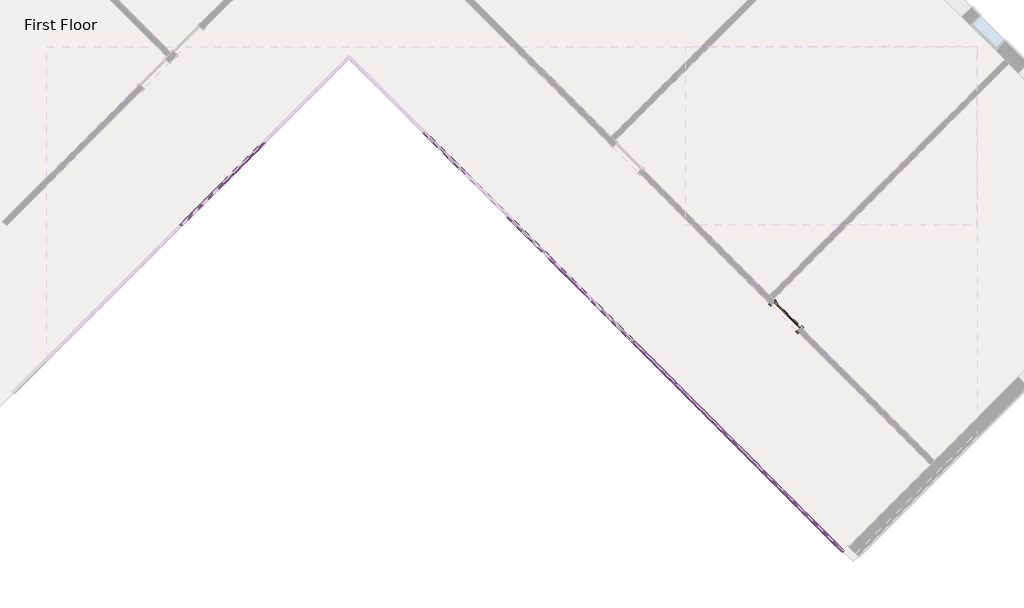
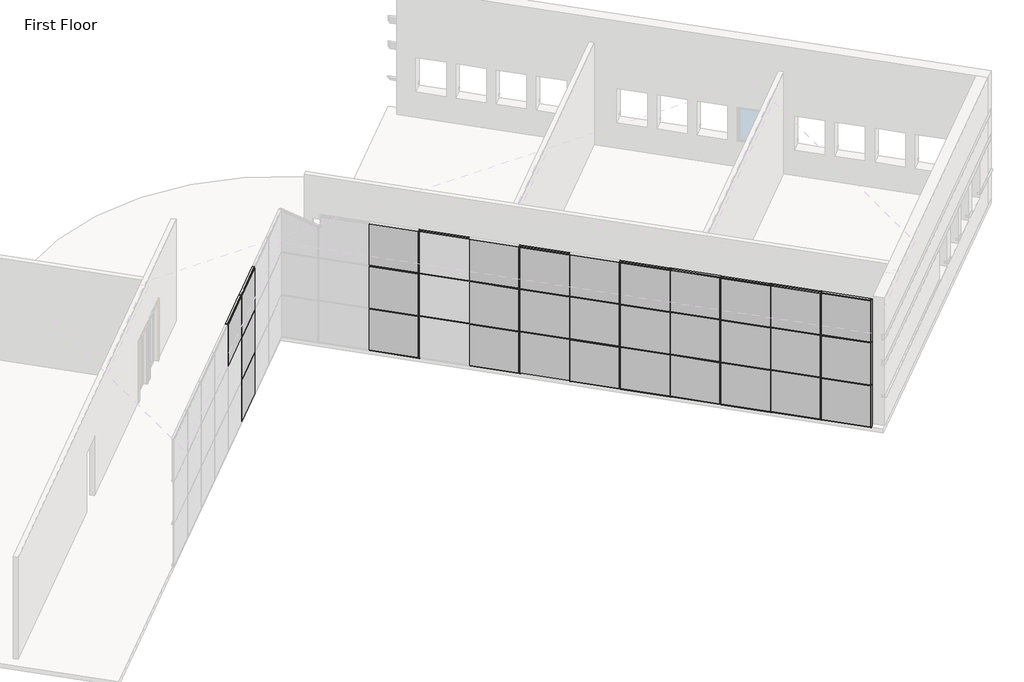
# One storey, part 2 of 5: 68 members, 31 plates, 1 door.
"""IFC4 building model written with IfcOpenShell, lengths in millimetres."""

from ifc_helpers import new_model, si_unit, origin, place, context, project, spatial, transform, mapped, element, save
from components import door_5f5b55da, member_b8a5b5c0, member_155beb68, member_f5090587, member_42be4715, member_6121af53, member_b87a50da, system_panel_glazed_f8555db4, system_panel_glazed_da345f4e, system_panel_glazed_d4009c89, system_panel_glazed_f1e4c5b0, system_panel_solid_99f695d0, system_panel_solid_2f1037e2

model = new_model("IFC4")

# Units and contexts
model_context = context("Model", 3, world=origin())
ifc_project = project(units=[si_unit("LENGTHUNIT", "METRE", prefix="MILLI")], contexts=[model_context])

# Site, building, storey
site = spatial("IfcSite", under=ifc_project)
building = spatial("IfcBuilding", under=site)
storey = spatial("IfcBuildingStorey", under=building, Name="First Floor", Elevation=0.0)

# Door
placement = place(None, origin())
door_shape = door_5f5b55da(model_context)
element("IfcDoor", 1, ObjectType="Single-Glass 1 : 36\" x 84\"", at=placement, inside=storey, context=model_context, shape_type="MappedRepresentation", body=[
    mapped(door_shape, transform((7764.3490435, -4325.5874634, 0.0), x_axis=(-0.7071067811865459, 0.7071067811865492, 0.0), y_axis=(-0.7071067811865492, -0.7071067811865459, 0.0), z_axis=(0.0, 0.0, 1.0))),
])

# Members
member_shape = member_b8a5b5c0(model_context)
element("IfcMember", 2, ObjectType="Rectangular Mullion : 1.5\" x 2.5\" Rectangular", at=placement, inside=storey, context=model_context, shape_type="MappedRepresentation", body=[
    mapped(member_shape, transform((9212.415343, -10333.3788084, 0.0), x_axis=(0.0, 0.0, -1.0), y_axis=(0.707106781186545, 0.70710678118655, 0.0), z_axis=(0.7071067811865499, -0.7071067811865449, 0.0))),
])
member_2_shape = member_155beb68(model_context)
element("IfcMember", 3, ObjectType="Rectangular Mullion : 1.5\" x 2.5\" Rectangular", at=placement, inside=storey, context=model_context, shape_type="MappedRepresentation", body=[
    mapped(member_2_shape, transform((-6675.9027992, -910.8450733, 0.0), x_axis=(-0.7071067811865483, -0.7071067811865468, 0.0), y_axis=(-0.7071067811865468, 0.7071067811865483, 0.0), z_axis=(0.0, 0.0, -1.0))),
])
element("IfcMember", 4, ObjectType="Rectangular Mullion : 1.5\" x 2.5\" Rectangular", at=placement, inside=storey, context=model_context, shape_type="MappedRepresentation", body=[
    mapped(member_2_shape, transform((-7753.5335337, -1988.4758079, 0.0), x_axis=(-0.7071067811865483, -0.7071067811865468, 0.0), y_axis=(-0.7071067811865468, 0.7071067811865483, 0.0), z_axis=(0.0, 0.0, -1.0))),
])
element("IfcMember", 5, ObjectType="Rectangular Mullion : 1.5\" x 2.5\" Rectangular", at=placement, inside=storey, context=model_context, shape_type="MappedRepresentation", body=[
    mapped(member_2_shape, transform((8161.7253768, -9282.6888422, 0.0), x_axis=(-0.7071067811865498, 0.7071067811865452, 0.0), y_axis=(0.7071067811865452, 0.7071067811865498, 0.0), z_axis=(0.0, 0.0, -1.0))),
])
element("IfcMember", 6, ObjectType="Rectangular Mullion : 1.5\" x 2.5\" Rectangular", at=placement, inside=storey, context=model_context, shape_type="MappedRepresentation", body=[
    mapped(member_2_shape, transform((7084.0946423, -8205.0581077, 0.0), x_axis=(-0.7071067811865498, 0.7071067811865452, 0.0), y_axis=(0.7071067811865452, 0.7071067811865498, 0.0), z_axis=(0.0, 0.0, -1.0))),
])
element("IfcMember", 7, ObjectType="Rectangular Mullion : 1.5\" x 2.5\" Rectangular", at=placement, inside=storey, context=model_context, shape_type="MappedRepresentation", body=[
    mapped(member_2_shape, transform((6006.4639078, -7127.4273731, 0.0), x_axis=(-0.7071067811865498, 0.7071067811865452, 0.0), y_axis=(0.7071067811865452, 0.7071067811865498, 0.0), z_axis=(0.0, 0.0, -1.0))),
])
element("IfcMember", 8, ObjectType="Rectangular Mullion : 1.5\" x 2.5\" Rectangular", at=placement, inside=storey, context=model_context, shape_type="MappedRepresentation", body=[
    mapped(member_2_shape, transform((4928.8331733, -6049.7966386, 0.0), x_axis=(-0.7071067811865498, 0.7071067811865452, 0.0), y_axis=(0.7071067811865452, 0.7071067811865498, 0.0), z_axis=(0.0, 0.0, -1.0))),
])
element("IfcMember", 9, ObjectType="Rectangular Mullion : 1.5\" x 2.5\" Rectangular", at=placement, inside=storey, context=model_context, shape_type="MappedRepresentation", body=[
    mapped(member_2_shape, transform((3851.2024387, -4972.1659041, 0.0), x_axis=(-0.7071067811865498, 0.7071067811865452, 0.0), y_axis=(0.7071067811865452, 0.7071067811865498, 0.0), z_axis=(0.0, 0.0, -1.0))),
])
element("IfcMember", 10, ObjectType="Rectangular Mullion : 1.5\" x 2.5\" Rectangular", at=placement, inside=storey, context=model_context, shape_type="MappedRepresentation", body=[
    mapped(member_2_shape, transform((2773.5717042, -3894.5351696, 0.0), x_axis=(-0.7071067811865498, 0.7071067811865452, 0.0), y_axis=(0.7071067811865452, 0.7071067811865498, 0.0), z_axis=(0.0, 0.0, -1.0))),
])
element("IfcMember", 11, ObjectType="Rectangular Mullion : 1.5\" x 2.5\" Rectangular", at=placement, inside=storey, context=model_context, shape_type="MappedRepresentation", body=[
    mapped(member_2_shape, transform((1695.9409697, -2816.904435, 0.0), x_axis=(-0.7071067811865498, 0.7071067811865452, 0.0), y_axis=(0.7071067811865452, 0.7071067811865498, 0.0), z_axis=(0.0, 0.0, -1.0))),
])
element("IfcMember", 12, ObjectType="Rectangular Mullion : 1.5\" x 2.5\" Rectangular", at=placement, inside=storey, context=model_context, shape_type="MappedRepresentation", body=[
    mapped(member_2_shape, transform((-459.3204994, -661.642966, 0.0), x_axis=(-0.7071067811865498, 0.7071067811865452, 0.0), y_axis=(0.7071067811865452, 0.7071067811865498, 0.0), z_axis=(0.0, 0.0, -1.0))),
])
member_3_shape = member_f5090587(model_context)
element("IfcMember", 13, ObjectType="Rectangular Mullion : 1.5\" x 2.5\" Rectangular", at=placement, inside=storey, context=model_context, shape_type="MappedRepresentation", body=[
    mapped(member_3_shape, transform((8175.195761, -9296.1592264, 1524.0), x_axis=(0.0, 0.0, 1.0), y_axis=(0.707106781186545, 0.70710678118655, 0.0), z_axis=(-0.7071067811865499, 0.7071067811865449, 0.0))),
])
element("IfcMember", 14, ObjectType="Rectangular Mullion : 1.5\" x 2.5\" Rectangular", at=placement, inside=storey, context=model_context, shape_type="MappedRepresentation", body=[
    mapped(member_3_shape, transform((8175.195761, -9296.1592264, 3048.0), x_axis=(0.0, 0.0, 1.0), y_axis=(0.7071067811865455, 0.7071067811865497, 0.0), z_axis=(-0.7071067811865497, 0.7071067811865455, 0.0))),
])
member_4_shape = member_42be4715(model_context)
element("IfcMember", 15, ObjectType="Rectangular Mullion : 1.5\" x 2.5\" Rectangular", at=placement, inside=storey, context=model_context, shape_type="MappedRepresentation", body=[
    mapped(member_4_shape, transform((-6662.432415, -897.3746892, 1524.0), x_axis=(0.0, 0.0, 1.0), y_axis=(-0.7071067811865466, 0.7071067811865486, 0.0), z_axis=(-0.7071067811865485, -0.7071067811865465, 0.0))),
])
element("IfcMember", 16, ObjectType="Rectangular Mullion : 1.5\" x 2.5\" Rectangular", at=placement, inside=storey, context=model_context, shape_type="MappedRepresentation", body=[
    mapped(member_4_shape, transform((-7740.0631495, -1975.0054237, 1524.0), x_axis=(0.0, 0.0, 1.0), y_axis=(-0.707106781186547, 0.707106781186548, 0.0), z_axis=(-0.707106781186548, -0.707106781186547, 0.0))),
])
element("IfcMember", 17, ObjectType="Rectangular Mullion : 1.5\" x 2.5\" Rectangular", at=placement, inside=storey, context=model_context, shape_type="MappedRepresentation", body=[
    mapped(member_4_shape, transform((-6662.432415, -897.3746892, 3048.0), x_axis=(0.0, 0.0, 1.0), y_axis=(-0.7071067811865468, 0.7071067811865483, 0.0), z_axis=(-0.7071067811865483, -0.7071067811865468, 0.0))),
])
element("IfcMember", 18, ObjectType="Rectangular Mullion : 1.5\" x 2.5\" Rectangular", at=placement, inside=storey, context=model_context, shape_type="MappedRepresentation", body=[
    mapped(member_4_shape, transform((-7740.0631495, -1975.0054237, 3048.0), x_axis=(0.0, 0.0, 1.0), y_axis=(-0.7071067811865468, 0.7071067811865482, 0.0), z_axis=(-0.7071067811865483, -0.7071067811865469, 0.0))),
])
element("IfcMember", 19, ObjectType="Rectangular Mullion : 1.5\" x 2.5\" Rectangular", at=placement, inside=storey, context=model_context, shape_type="MappedRepresentation", body=[
    mapped(member_4_shape, transform((7097.5650265, -8218.5284919, 1524.0), x_axis=(0.0, 0.0, 1.0), y_axis=(0.7071067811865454, 0.7071067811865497, 0.0), z_axis=(-0.7071067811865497, 0.7071067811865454, 0.0))),
])
element("IfcMember", 20, ObjectType="Rectangular Mullion : 1.5\" x 2.5\" Rectangular", at=placement, inside=storey, context=model_context, shape_type="MappedRepresentation", body=[
    mapped(member_4_shape, transform((6019.934292, -7140.8977573, 1524.0), x_axis=(0.0, 0.0, 1.0), y_axis=(0.7071067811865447, 0.7071067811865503, 0.0), z_axis=(-0.7071067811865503, 0.7071067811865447, 0.0))),
])
element("IfcMember", 21, ObjectType="Rectangular Mullion : 1.5\" x 2.5\" Rectangular", at=placement, inside=storey, context=model_context, shape_type="MappedRepresentation", body=[
    mapped(member_4_shape, transform((4942.3035574, -6063.2670228, 1524.0), x_axis=(0.0, 0.0, 1.0), y_axis=(0.7071067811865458, 0.7071067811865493, 0.0), z_axis=(-0.7071067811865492, 0.7071067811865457, 0.0))),
])
element("IfcMember", 22, ObjectType="Rectangular Mullion : 1.5\" x 2.5\" Rectangular", at=placement, inside=storey, context=model_context, shape_type="MappedRepresentation", body=[
    mapped(member_4_shape, transform((3864.6728229, -4985.6362883, 1524.0), x_axis=(0.0, 0.0, 1.0), y_axis=(0.7071067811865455, 0.7071067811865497, 0.0), z_axis=(-0.7071067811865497, 0.7071067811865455, 0.0))),
])
element("IfcMember", 23, ObjectType="Rectangular Mullion : 1.5\" x 2.5\" Rectangular", at=placement, inside=storey, context=model_context, shape_type="MappedRepresentation", body=[
    mapped(member_4_shape, transform((2787.0420884, -3908.0055537, 1524.0), x_axis=(0.0, 0.0, 1.0), y_axis=(0.707106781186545, 0.70710678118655, 0.0), z_axis=(-0.7071067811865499, 0.7071067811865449, 0.0))),
])
element("IfcMember", 24, ObjectType="Rectangular Mullion : 1.5\" x 2.5\" Rectangular", at=placement, inside=storey, context=model_context, shape_type="MappedRepresentation", body=[
    mapped(member_4_shape, transform((1709.4113539, -2830.3748192, 1524.0), x_axis=(0.0, 0.0, 1.0), y_axis=(0.7071067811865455, 0.7071067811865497, 0.0), z_axis=(-0.7071067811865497, 0.7071067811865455, 0.0))),
])
element("IfcMember", 25, ObjectType="Rectangular Mullion : 1.5\" x 2.5\" Rectangular", at=placement, inside=storey, context=model_context, shape_type="MappedRepresentation", body=[
    mapped(member_4_shape, transform((-445.8501152, -675.1133502, 1524.0), x_axis=(0.0, 0.0, 1.0), y_axis=(0.707106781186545, 0.70710678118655, 0.0), z_axis=(-0.70710678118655, 0.707106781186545, 0.0))),
])
element("IfcMember", 26, ObjectType="Rectangular Mullion : 1.5\" x 2.5\" Rectangular", at=placement, inside=storey, context=model_context, shape_type="MappedRepresentation", body=[
    mapped(member_4_shape, transform((7097.5650265, -8218.5284919, 3048.0), x_axis=(0.0, 0.0, 1.0), y_axis=(0.707106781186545, 0.70710678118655, 0.0), z_axis=(-0.70710678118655, 0.707106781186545, 0.0))),
])
element("IfcMember", 27, ObjectType="Rectangular Mullion : 1.5\" x 2.5\" Rectangular", at=placement, inside=storey, context=model_context, shape_type="MappedRepresentation", body=[
    mapped(member_4_shape, transform((6019.934292, -7140.8977573, 3048.0), x_axis=(0.0, 0.0, 1.0), y_axis=(0.7071067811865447, 0.7071067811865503, 0.0), z_axis=(-0.7071067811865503, 0.7071067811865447, 0.0))),
])
element("IfcMember", 28, ObjectType="Rectangular Mullion : 1.5\" x 2.5\" Rectangular", at=placement, inside=storey, context=model_context, shape_type="MappedRepresentation", body=[
    mapped(member_4_shape, transform((4942.3035574, -6063.2670228, 3048.0), x_axis=(0.0, 0.0, 1.0), y_axis=(0.7071067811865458, 0.7071067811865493, 0.0), z_axis=(-0.7071067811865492, 0.7071067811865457, 0.0))),
])
element("IfcMember", 29, ObjectType="Rectangular Mullion : 1.5\" x 2.5\" Rectangular", at=placement, inside=storey, context=model_context, shape_type="MappedRepresentation", body=[
    mapped(member_4_shape, transform((3864.6728229, -4985.6362883, 3048.0), x_axis=(0.0, 0.0, 1.0), y_axis=(0.7071067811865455, 0.7071067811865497, 0.0), z_axis=(-0.7071067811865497, 0.7071067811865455, 0.0))),
])
element("IfcMember", 30, ObjectType="Rectangular Mullion : 1.5\" x 2.5\" Rectangular", at=placement, inside=storey, context=model_context, shape_type="MappedRepresentation", body=[
    mapped(member_4_shape, transform((1709.4113539, -2830.3748192, 3048.0), x_axis=(0.0, 0.0, 1.0), y_axis=(0.7071067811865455, 0.7071067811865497, 0.0), z_axis=(-0.7071067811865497, 0.7071067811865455, 0.0))),
])
element("IfcMember", 31, ObjectType="Rectangular Mullion : 1.5\" x 2.5\" Rectangular", at=placement, inside=storey, context=model_context, shape_type="MappedRepresentation", body=[
    mapped(member_4_shape, transform((-445.8501152, -675.1133502, 3048.0), x_axis=(0.0, 0.0, 1.0), y_axis=(0.7071067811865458, 0.7071067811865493, 0.0), z_axis=(-0.7071067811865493, 0.7071067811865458, 0.0))),
])
member_5_shape = member_6121af53(model_context)
element("IfcMember", 32, ObjectType="Rectangular Mullion : 1.5\" x 2.5\" Rectangular", at=placement, inside=storey, context=model_context, shape_type="MappedRepresentation", body=[
    mapped(member_5_shape, transform((-6689.3731834, -924.3154575, 0.0), x_axis=(0.0, 0.0, -1.0), y_axis=(-0.7071067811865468, 0.7071067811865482, 0.0), z_axis=(0.7071067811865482, 0.7071067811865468, 0.0))),
])
element("IfcMember", 33, ObjectType="Rectangular Mullion : 1.5\" x 2.5\" Rectangular", at=placement, inside=storey, context=model_context, shape_type="MappedRepresentation", body=[
    mapped(member_5_shape, transform((8148.2549927, -9269.218458, 0.0), x_axis=(0.0, 0.0, -1.0), y_axis=(0.7071067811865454, 0.7071067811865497, 0.0), z_axis=(0.7071067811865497, -0.7071067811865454, 0.0))),
])
element("IfcMember", 34, ObjectType="Rectangular Mullion : 1.5\" x 2.5\" Rectangular", at=placement, inside=storey, context=model_context, shape_type="MappedRepresentation", body=[
    mapped(member_5_shape, transform((7070.6242581, -8191.5877235, 0.0), x_axis=(0.0, 0.0, -1.0), y_axis=(0.7071067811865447, 0.7071067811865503, 0.0), z_axis=(0.7071067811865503, -0.7071067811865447, 0.0))),
])
element("IfcMember", 35, ObjectType="Rectangular Mullion : 1.5\" x 2.5\" Rectangular", at=placement, inside=storey, context=model_context, shape_type="MappedRepresentation", body=[
    mapped(member_5_shape, transform((5992.9935236, -7113.956989, 0.0), x_axis=(0.0, 0.0, -1.0), y_axis=(0.7071067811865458, 0.7071067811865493, 0.0), z_axis=(0.7071067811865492, -0.7071067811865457, 0.0))),
])
element("IfcMember", 36, ObjectType="Rectangular Mullion : 1.5\" x 2.5\" Rectangular", at=placement, inside=storey, context=model_context, shape_type="MappedRepresentation", body=[
    mapped(member_5_shape, transform((4915.3627891, -6036.3262544, 0.0), x_axis=(0.0, 0.0, -1.0), y_axis=(0.707106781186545, 0.70710678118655, 0.0), z_axis=(0.70710678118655, -0.707106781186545, 0.0))),
])
element("IfcMember", 37, ObjectType="Rectangular Mullion : 1.5\" x 2.5\" Rectangular", at=placement, inside=storey, context=model_context, shape_type="MappedRepresentation", body=[
    mapped(member_5_shape, transform((3837.7320545, -4958.6955199, 0.0), x_axis=(0.0, 0.0, -1.0), y_axis=(0.7071067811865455, 0.7071067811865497, 0.0), z_axis=(0.7071067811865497, -0.7071067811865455, 0.0))),
])
element("IfcMember", 38, ObjectType="Rectangular Mullion : 1.5\" x 2.5\" Rectangular", at=placement, inside=storey, context=model_context, shape_type="MappedRepresentation", body=[
    mapped(member_5_shape, transform((1682.4705855, -2803.4340508, 0.0), x_axis=(0.0, 0.0, -1.0), y_axis=(0.707106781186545, 0.70710678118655, 0.0), z_axis=(0.7071067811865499, -0.7071067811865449, 0.0))),
])
element("IfcMember", 39, ObjectType="Rectangular Mullion : 1.5\" x 2.5\" Rectangular", at=placement, inside=storey, context=model_context, shape_type="MappedRepresentation", body=[
    mapped(member_5_shape, transform((-472.7908836, -648.1725818, 0.0), x_axis=(0.0, 0.0, -1.0), y_axis=(0.7071067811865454, 0.7071067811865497, 0.0), z_axis=(0.7071067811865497, -0.7071067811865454, 0.0))),
])
element("IfcMember", 40, ObjectType="Rectangular Mullion : 1.5\" x 2.5\" Rectangular", at=placement, inside=storey, context=model_context, shape_type="MappedRepresentation", body=[
    mapped(member_shape, transform((8175.195761, -9296.1592264, 4572.0), x_axis=(0.0, 0.0, 1.0), y_axis=(0.7071067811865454, 0.7071067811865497, 0.0), z_axis=(-0.7071067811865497, 0.7071067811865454, 0.0))),
])
element("IfcMember", 41, ObjectType="Rectangular Mullion : 1.5\" x 2.5\" Rectangular", at=placement, inside=storey, context=model_context, shape_type="MappedRepresentation", body=[
    mapped(member_5_shape, transform((-6662.432415, -897.3746892, 4572.0), x_axis=(0.0, 0.0, 1.0), y_axis=(-0.7071067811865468, 0.7071067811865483, 0.0), z_axis=(-0.7071067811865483, -0.7071067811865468, 0.0))),
])
element("IfcMember", 42, ObjectType="Rectangular Mullion : 1.5\" x 2.5\" Rectangular", at=placement, inside=storey, context=model_context, shape_type="MappedRepresentation", body=[
    mapped(member_5_shape, transform((-7740.0631495, -1975.0054237, 4572.0), x_axis=(0.0, 0.0, 1.0), y_axis=(-0.7071067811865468, 0.7071067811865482, 0.0), z_axis=(-0.7071067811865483, -0.7071067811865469, 0.0))),
])
element("IfcMember", 43, ObjectType="Rectangular Mullion : 1.5\" x 2.5\" Rectangular", at=placement, inside=storey, context=model_context, shape_type="MappedRepresentation", body=[
    mapped(member_5_shape, transform((7097.5650265, -8218.5284919, 4572.0), x_axis=(0.0, 0.0, 1.0), y_axis=(0.7071067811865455, 0.7071067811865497, 0.0), z_axis=(-0.7071067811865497, 0.7071067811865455, 0.0))),
])
element("IfcMember", 44, ObjectType="Rectangular Mullion : 1.5\" x 2.5\" Rectangular", at=placement, inside=storey, context=model_context, shape_type="MappedRepresentation", body=[
    mapped(member_5_shape, transform((6019.934292, -7140.8977573, 4572.0), x_axis=(0.0, 0.0, 1.0), y_axis=(0.7071067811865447, 0.7071067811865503, 0.0), z_axis=(-0.7071067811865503, 0.7071067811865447, 0.0))),
])
element("IfcMember", 45, ObjectType="Rectangular Mullion : 1.5\" x 2.5\" Rectangular", at=placement, inside=storey, context=model_context, shape_type="MappedRepresentation", body=[
    mapped(member_5_shape, transform((4942.3035574, -6063.2670228, 4572.0), x_axis=(0.0, 0.0, 1.0), y_axis=(0.7071067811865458, 0.7071067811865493, 0.0), z_axis=(-0.7071067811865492, 0.7071067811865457, 0.0))),
])
element("IfcMember", 46, ObjectType="Rectangular Mullion : 1.5\" x 2.5\" Rectangular", at=placement, inside=storey, context=model_context, shape_type="MappedRepresentation", body=[
    mapped(member_5_shape, transform((3864.6728229, -4985.6362883, 4572.0), x_axis=(0.0, 0.0, 1.0), y_axis=(0.7071067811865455, 0.7071067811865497, 0.0), z_axis=(-0.7071067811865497, 0.7071067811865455, 0.0))),
])
element("IfcMember", 47, ObjectType="Rectangular Mullion : 1.5\" x 2.5\" Rectangular", at=placement, inside=storey, context=model_context, shape_type="MappedRepresentation", body=[
    mapped(member_5_shape, transform((1709.4113539, -2830.3748192, 4572.0), x_axis=(0.0, 0.0, 1.0), y_axis=(0.7071067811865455, 0.7071067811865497, 0.0), z_axis=(-0.7071067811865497, 0.7071067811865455, 0.0))),
])
element("IfcMember", 48, ObjectType="Rectangular Mullion : 1.5\" x 2.5\" Rectangular", at=placement, inside=storey, context=model_context, shape_type="MappedRepresentation", body=[
    mapped(member_5_shape, transform((-445.8501152, -675.1133502, 4572.0), x_axis=(0.0, 0.0, 1.0), y_axis=(0.7071067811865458, 0.7071067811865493, 0.0), z_axis=(-0.7071067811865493, 0.7071067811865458, 0.0))),
])
element("IfcMember", 49, ObjectType="Rectangular Mullion : 1.5\" x 2.5\" Rectangular", at=placement, inside=storey, context=model_context, shape_type="MappedRepresentation", body=[
    mapped(member_2_shape, transform((-6675.9027992, -910.8450733, 1524.0), x_axis=(-0.7071067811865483, -0.7071067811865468, 0.0), y_axis=(-0.7071067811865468, 0.7071067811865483, 0.0), z_axis=(0.0, 0.0, -1.0))),
])
element("IfcMember", 50, ObjectType="Rectangular Mullion : 1.5\" x 2.5\" Rectangular", at=placement, inside=storey, context=model_context, shape_type="MappedRepresentation", body=[
    mapped(member_2_shape, transform((-7753.5335337, -1988.4758079, 1524.0), x_axis=(-0.7071067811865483, -0.7071067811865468, 0.0), y_axis=(-0.7071067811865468, 0.7071067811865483, 0.0), z_axis=(0.0, 0.0, -1.0))),
])
element("IfcMember", 51, ObjectType="Rectangular Mullion : 1.5\" x 2.5\" Rectangular", at=placement, inside=storey, context=model_context, shape_type="MappedRepresentation", body=[
    mapped(member_2_shape, transform((8161.7253768, -9282.6888422, 1524.0), x_axis=(-0.7071067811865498, 0.7071067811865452, 0.0), y_axis=(0.7071067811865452, 0.7071067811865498, 0.0), z_axis=(0.0, 0.0, -1.0))),
])
element("IfcMember", 52, ObjectType="Rectangular Mullion : 1.5\" x 2.5\" Rectangular", at=placement, inside=storey, context=model_context, shape_type="MappedRepresentation", body=[
    mapped(member_2_shape, transform((7084.0946423, -8205.0581077, 1524.0), x_axis=(-0.7071067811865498, 0.7071067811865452, 0.0), y_axis=(0.7071067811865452, 0.7071067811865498, 0.0), z_axis=(0.0, 0.0, -1.0))),
])
element("IfcMember", 53, ObjectType="Rectangular Mullion : 1.5\" x 2.5\" Rectangular", at=placement, inside=storey, context=model_context, shape_type="MappedRepresentation", body=[
    mapped(member_2_shape, transform((6006.4639078, -7127.4273731, 1524.0), x_axis=(-0.7071067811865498, 0.7071067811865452, 0.0), y_axis=(0.7071067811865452, 0.7071067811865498, 0.0), z_axis=(0.0, 0.0, -1.0))),
])
element("IfcMember", 54, ObjectType="Rectangular Mullion : 1.5\" x 2.5\" Rectangular", at=placement, inside=storey, context=model_context, shape_type="MappedRepresentation", body=[
    mapped(member_2_shape, transform((4928.8331733, -6049.7966386, 1524.0), x_axis=(-0.7071067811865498, 0.7071067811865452, 0.0), y_axis=(0.7071067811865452, 0.7071067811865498, 0.0), z_axis=(0.0, 0.0, -1.0))),
])
element("IfcMember", 55, ObjectType="Rectangular Mullion : 1.5\" x 2.5\" Rectangular", at=placement, inside=storey, context=model_context, shape_type="MappedRepresentation", body=[
    mapped(member_2_shape, transform((3851.2024387, -4972.1659041, 1524.0), x_axis=(-0.7071067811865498, 0.7071067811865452, 0.0), y_axis=(0.7071067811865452, 0.7071067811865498, 0.0), z_axis=(0.0, 0.0, -1.0))),
])
element("IfcMember", 56, ObjectType="Rectangular Mullion : 1.5\" x 2.5\" Rectangular", at=placement, inside=storey, context=model_context, shape_type="MappedRepresentation", body=[
    mapped(member_2_shape, transform((1695.9409697, -2816.904435, 1524.0), x_axis=(-0.7071067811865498, 0.7071067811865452, 0.0), y_axis=(0.7071067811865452, 0.7071067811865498, 0.0), z_axis=(0.0, 0.0, -1.0))),
])
element("IfcMember", 57, ObjectType="Rectangular Mullion : 1.5\" x 2.5\" Rectangular", at=placement, inside=storey, context=model_context, shape_type="MappedRepresentation", body=[
    mapped(member_2_shape, transform((-459.3204994, -661.642966, 1524.0), x_axis=(-0.7071067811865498, 0.7071067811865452, 0.0), y_axis=(0.7071067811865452, 0.7071067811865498, 0.0), z_axis=(0.0, 0.0, -1.0))),
])
element("IfcMember", 58, ObjectType="Rectangular Mullion : 1.5\" x 2.5\" Rectangular", at=placement, inside=storey, context=model_context, shape_type="MappedRepresentation", body=[
    mapped(member_2_shape, transform((-6675.9027992, -910.8450733, 3048.0), x_axis=(-0.7071067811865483, -0.7071067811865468, 0.0), y_axis=(-0.7071067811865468, 0.7071067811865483, 0.0), z_axis=(0.0, 0.0, -1.0))),
])
element("IfcMember", 59, ObjectType="Rectangular Mullion : 1.5\" x 2.5\" Rectangular", at=placement, inside=storey, context=model_context, shape_type="MappedRepresentation", body=[
    mapped(member_2_shape, transform((-7753.5335337, -1988.4758079, 3048.0), x_axis=(-0.7071067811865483, -0.7071067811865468, 0.0), y_axis=(-0.7071067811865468, 0.7071067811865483, 0.0), z_axis=(0.0, 0.0, -1.0))),
])
element("IfcMember", 60, ObjectType="Rectangular Mullion : 1.5\" x 2.5\" Rectangular", at=placement, inside=storey, context=model_context, shape_type="MappedRepresentation", body=[
    mapped(member_2_shape, transform((8161.7253768, -9282.6888422, 3048.0), x_axis=(-0.7071067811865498, 0.7071067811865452, 0.0), y_axis=(0.7071067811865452, 0.7071067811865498, 0.0), z_axis=(0.0, 0.0, -1.0))),
])
element("IfcMember", 61, ObjectType="Rectangular Mullion : 1.5\" x 2.5\" Rectangular", at=placement, inside=storey, context=model_context, shape_type="MappedRepresentation", body=[
    mapped(member_2_shape, transform((7084.0946423, -8205.0581077, 3048.0), x_axis=(-0.7071067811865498, 0.7071067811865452, 0.0), y_axis=(0.7071067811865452, 0.7071067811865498, 0.0), z_axis=(0.0, 0.0, -1.0))),
])
element("IfcMember", 62, ObjectType="Rectangular Mullion : 1.5\" x 2.5\" Rectangular", at=placement, inside=storey, context=model_context, shape_type="MappedRepresentation", body=[
    mapped(member_2_shape, transform((6006.4639078, -7127.4273731, 3048.0), x_axis=(-0.7071067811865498, 0.7071067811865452, 0.0), y_axis=(0.7071067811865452, 0.7071067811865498, 0.0), z_axis=(0.0, 0.0, -1.0))),
])
element("IfcMember", 63, ObjectType="Rectangular Mullion : 1.5\" x 2.5\" Rectangular", at=placement, inside=storey, context=model_context, shape_type="MappedRepresentation", body=[
    mapped(member_2_shape, transform((4928.8331733, -6049.7966386, 3048.0), x_axis=(-0.7071067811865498, 0.7071067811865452, 0.0), y_axis=(0.7071067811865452, 0.7071067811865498, 0.0), z_axis=(0.0, 0.0, -1.0))),
])
element("IfcMember", 64, ObjectType="Rectangular Mullion : 1.5\" x 2.5\" Rectangular", at=placement, inside=storey, context=model_context, shape_type="MappedRepresentation", body=[
    mapped(member_2_shape, transform((3851.2024387, -4972.1659041, 3048.0), x_axis=(-0.7071067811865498, 0.7071067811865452, 0.0), y_axis=(0.7071067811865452, 0.7071067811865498, 0.0), z_axis=(0.0, 0.0, -1.0))),
])
element("IfcMember", 65, ObjectType="Rectangular Mullion : 1.5\" x 2.5\" Rectangular", at=placement, inside=storey, context=model_context, shape_type="MappedRepresentation", body=[
    mapped(member_2_shape, transform((1695.9409697, -2816.904435, 3048.0), x_axis=(-0.7071067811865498, 0.7071067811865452, 0.0), y_axis=(0.7071067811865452, 0.7071067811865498, 0.0), z_axis=(0.0, 0.0, -1.0))),
])
element("IfcMember", 66, ObjectType="Rectangular Mullion : 1.5\" x 2.5\" Rectangular", at=placement, inside=storey, context=model_context, shape_type="MappedRepresentation", body=[
    mapped(member_2_shape, transform((-459.3204994, -661.642966, 3048.0), x_axis=(-0.7071067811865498, 0.7071067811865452, 0.0), y_axis=(0.7071067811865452, 0.7071067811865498, 0.0), z_axis=(0.0, 0.0, -1.0))),
])
member_6_shape = member_b87a50da(model_context)
element("IfcMember", 67, ObjectType="Rectangular Mullion : 1.5\" x 2.5\" Rectangular", at=placement, inside=storey, context=model_context, shape_type="MappedRepresentation", body=[
    mapped(member_6_shape, transform((9239.3561114, -10360.3195767, 4572.0), x_axis=(0.7071067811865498, -0.7071067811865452, 0.0), y_axis=(0.7071067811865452, 0.7071067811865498, 0.0), z_axis=(0.0, 0.0, 1.0))),
])
element("IfcMember", 68, ObjectType="Rectangular Mullion : 1.5\" x 2.5\" Rectangular", at=placement, inside=storey, context=model_context, shape_type="MappedRepresentation", body=[
    mapped(member_6_shape, transform((9239.3561114, -10360.3195767, 1524.0), x_axis=(0.7071067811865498, -0.7071067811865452, 0.0), y_axis=(0.7071067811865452, 0.7071067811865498, 0.0), z_axis=(0.0, 0.0, 1.0))),
])
element("IfcMember", 69, ObjectType="Rectangular Mullion : 1.5\" x 2.5\" Rectangular", at=placement, inside=storey, context=model_context, shape_type="MappedRepresentation", body=[
    mapped(member_6_shape, transform((9239.3561114, -10360.3195767, 3048.0), x_axis=(0.7071067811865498, -0.7071067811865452, 0.0), y_axis=(0.7071067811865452, 0.7071067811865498, 0.0), z_axis=(0.0, 0.0, 1.0))),
])

# Plates
system_panel_glazed_shape = system_panel_glazed_f8555db4(model_context)
element("IfcPlate", 70, ObjectType="System Panel : Glazed", at=placement, inside=storey, context=model_context, shape_type="MappedRepresentation", body=[
    mapped(system_panel_glazed_shape, transform((8693.805552, -9814.7690174, 38.1), x_axis=(-0.7071067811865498, 0.7071067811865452, 0.0), y_axis=(-0.7071067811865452, -0.7071067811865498, 0.0), z_axis=(0.0, 0.0, 1.0))),
])
system_panel_glazed_2_shape = system_panel_glazed_da345f4e(model_context)
element("IfcPlate", 71, ObjectType="System Panel : Glazed", at=placement, inside=storey, context=model_context, shape_type="MappedRepresentation", body=[
    mapped(system_panel_glazed_2_shape, transform((7622.9100096, -8743.8734749, 38.1), x_axis=(-0.7071067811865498, 0.7071067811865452, 0.0), y_axis=(-0.7071067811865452, -0.7071067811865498, 0.0), z_axis=(0.0, 0.0, 1.0))),
])
element("IfcPlate", 72, ObjectType="System Panel : Glazed", at=placement, inside=storey, context=model_context, shape_type="MappedRepresentation", body=[
    mapped(system_panel_glazed_2_shape, transform((6545.2792751, -7666.2427404, 38.1), x_axis=(-0.7071067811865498, 0.7071067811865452, 0.0), y_axis=(-0.7071067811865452, -0.7071067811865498, 0.0), z_axis=(0.0, 0.0, 1.0))),
])
element("IfcPlate", 73, ObjectType="System Panel : Glazed", at=placement, inside=storey, context=model_context, shape_type="MappedRepresentation", body=[
    mapped(system_panel_glazed_2_shape, transform((5467.6485405, -6588.6120059, 38.1), x_axis=(-0.7071067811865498, 0.7071067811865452, 0.0), y_axis=(-0.7071067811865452, -0.7071067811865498, 0.0), z_axis=(0.0, 0.0, 1.0))),
])
element("IfcPlate", 74, ObjectType="System Panel : Glazed", at=placement, inside=storey, context=model_context, shape_type="MappedRepresentation", body=[
    mapped(system_panel_glazed_2_shape, transform((4390.017806, -5510.9812714, 38.1), x_axis=(-0.7071067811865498, 0.7071067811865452, 0.0), y_axis=(-0.7071067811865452, -0.7071067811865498, 0.0), z_axis=(0.0, 0.0, 1.0))),
])
element("IfcPlate", 75, ObjectType="System Panel : Glazed", at=placement, inside=storey, context=model_context, shape_type="MappedRepresentation", body=[
    mapped(system_panel_glazed_2_shape, transform((3312.3870715, -4433.3505368, 38.1), x_axis=(-0.7071067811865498, 0.7071067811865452, 0.0), y_axis=(-0.7071067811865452, -0.7071067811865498, 0.0), z_axis=(0.0, 0.0, 1.0))),
])
element("IfcPlate", 76, ObjectType="System Panel : Glazed", at=placement, inside=storey, context=model_context, shape_type="MappedRepresentation", body=[
    mapped(system_panel_glazed_2_shape, transform((2234.7563369, -3355.7198023, 38.1), x_axis=(-0.7071067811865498, 0.7071067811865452, 0.0), y_axis=(-0.7071067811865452, -0.7071067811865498, 0.0), z_axis=(0.0, 0.0, 1.0))),
])
element("IfcPlate", 77, ObjectType="System Panel : Glazed", at=placement, inside=storey, context=model_context, shape_type="MappedRepresentation", body=[
    mapped(system_panel_glazed_2_shape, transform((1157.1256024, -2278.0890678, 38.1), x_axis=(-0.7071067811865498, 0.7071067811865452, 0.0), y_axis=(-0.7071067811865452, -0.7071067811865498, 0.0), z_axis=(0.0, 0.0, 1.0))),
])
element("IfcPlate", 78, ObjectType="System Panel : Glazed", at=placement, inside=storey, context=model_context, shape_type="MappedRepresentation", body=[
    mapped(system_panel_glazed_2_shape, transform((-998.1358666, -122.8275987, 38.1), x_axis=(-0.7071067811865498, 0.7071067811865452, 0.0), y_axis=(-0.7071067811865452, -0.7071067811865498, 0.0), z_axis=(0.0, 0.0, 1.0))),
])
element("IfcPlate", 79, ObjectType="System Panel : Glazed", at=placement, inside=storey, context=model_context, shape_type="MappedRepresentation", body=[
    mapped(system_panel_glazed_2_shape, transform((-6137.0874319, -372.0297061, 38.1), x_axis=(-0.7071067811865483, -0.7071067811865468, 0.0), y_axis=(0.7071067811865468, -0.7071067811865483, 0.0), z_axis=(0.0, 0.0, 1.0))),
])
system_panel_glazed_3_shape = system_panel_glazed_d4009c89(model_context)
element("IfcPlate", 80, ObjectType="System Panel : Glazed", at=placement, inside=storey, context=model_context, shape_type="MappedRepresentation", body=[
    mapped(system_panel_glazed_3_shape, transform((8693.805552, -9814.7690174, 1543.05), x_axis=(-0.7071067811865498, 0.7071067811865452, 0.0), y_axis=(-0.7071067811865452, -0.7071067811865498, 0.0), z_axis=(0.0, 0.0, 1.0))),
])
system_panel_glazed_4_shape = system_panel_glazed_f1e4c5b0(model_context)
element("IfcPlate", 81, ObjectType="System Panel : Glazed", at=placement, inside=storey, context=model_context, shape_type="MappedRepresentation", body=[
    mapped(system_panel_glazed_4_shape, transform((7622.9100096, -8743.8734749, 1543.05), x_axis=(-0.7071067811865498, 0.7071067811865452, 0.0), y_axis=(-0.7071067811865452, -0.7071067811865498, 0.0), z_axis=(0.0, 0.0, 1.0))),
])
element("IfcPlate", 82, ObjectType="System Panel : Glazed", at=placement, inside=storey, context=model_context, shape_type="MappedRepresentation", body=[
    mapped(system_panel_glazed_4_shape, transform((6545.2792751, -7666.2427404, 1543.05), x_axis=(-0.7071067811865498, 0.7071067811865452, 0.0), y_axis=(-0.7071067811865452, -0.7071067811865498, 0.0), z_axis=(0.0, 0.0, 1.0))),
])
element("IfcPlate", 83, ObjectType="System Panel : Glazed", at=placement, inside=storey, context=model_context, shape_type="MappedRepresentation", body=[
    mapped(system_panel_glazed_4_shape, transform((5467.6485405, -6588.6120059, 1543.05), x_axis=(-0.7071067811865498, 0.7071067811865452, 0.0), y_axis=(-0.7071067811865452, -0.7071067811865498, 0.0), z_axis=(0.0, 0.0, 1.0))),
])
element("IfcPlate", 84, ObjectType="System Panel : Glazed", at=placement, inside=storey, context=model_context, shape_type="MappedRepresentation", body=[
    mapped(system_panel_glazed_4_shape, transform((4390.017806, -5510.9812714, 1543.05), x_axis=(-0.7071067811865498, 0.7071067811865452, 0.0), y_axis=(-0.7071067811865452, -0.7071067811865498, 0.0), z_axis=(0.0, 0.0, 1.0))),
])
element("IfcPlate", 85, ObjectType="System Panel : Glazed", at=placement, inside=storey, context=model_context, shape_type="MappedRepresentation", body=[
    mapped(system_panel_glazed_4_shape, transform((3312.3870715, -4433.3505368, 1543.05), x_axis=(-0.7071067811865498, 0.7071067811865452, 0.0), y_axis=(-0.7071067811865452, -0.7071067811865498, 0.0), z_axis=(0.0, 0.0, 1.0))),
])
element("IfcPlate", 86, ObjectType="System Panel : Glazed", at=placement, inside=storey, context=model_context, shape_type="MappedRepresentation", body=[
    mapped(system_panel_glazed_4_shape, transform((2234.7563369, -3355.7198023, 1543.05), x_axis=(-0.7071067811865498, 0.7071067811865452, 0.0), y_axis=(-0.7071067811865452, -0.7071067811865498, 0.0), z_axis=(0.0, 0.0, 1.0))),
])
element("IfcPlate", 87, ObjectType="System Panel : Glazed", at=placement, inside=storey, context=model_context, shape_type="MappedRepresentation", body=[
    mapped(system_panel_glazed_4_shape, transform((1157.1256024, -2278.0890678, 1543.05), x_axis=(-0.7071067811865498, 0.7071067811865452, 0.0), y_axis=(-0.7071067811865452, -0.7071067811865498, 0.0), z_axis=(0.0, 0.0, 1.0))),
])
element("IfcPlate", 88, ObjectType="System Panel : Glazed", at=placement, inside=storey, context=model_context, shape_type="MappedRepresentation", body=[
    mapped(system_panel_glazed_4_shape, transform((-998.1358666, -122.8275987, 1543.05), x_axis=(-0.7071067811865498, 0.7071067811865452, 0.0), y_axis=(-0.7071067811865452, -0.7071067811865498, 0.0), z_axis=(0.0, 0.0, 1.0))),
])
element("IfcPlate", 89, ObjectType="System Panel : Glazed", at=placement, inside=storey, context=model_context, shape_type="MappedRepresentation", body=[
    mapped(system_panel_glazed_4_shape, transform((-6137.0874319, -372.0297061, 1543.05), x_axis=(-0.7071067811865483, -0.7071067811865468, 0.0), y_axis=(0.7071067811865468, -0.7071067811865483, 0.0), z_axis=(0.0, 0.0, 1.0))),
])
system_panel_solid_shape = system_panel_solid_99f695d0(model_context)
element("IfcPlate", 90, ObjectType="System Panel : Solid", at=placement, inside=storey, context=model_context, shape_type="MappedRepresentation", body=[
    mapped(system_panel_solid_shape, transform((8693.805552, -9814.7690174, 3067.05), x_axis=(-0.7071067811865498, 0.7071067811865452, 0.0), y_axis=(-0.7071067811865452, -0.7071067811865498, 0.0), z_axis=(0.0, 0.0, 1.0))),
])
system_panel_solid_2_shape = system_panel_solid_2f1037e2(model_context)
element("IfcPlate", 91, ObjectType="System Panel : Solid", at=placement, inside=storey, context=model_context, shape_type="MappedRepresentation", body=[
    mapped(system_panel_solid_2_shape, transform((7622.9100096, -8743.8734749, 3067.05), x_axis=(-0.7071067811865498, 0.7071067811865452, 0.0), y_axis=(-0.7071067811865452, -0.7071067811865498, 0.0), z_axis=(0.0, 0.0, 1.0))),
])
element("IfcPlate", 92, ObjectType="System Panel : Solid", at=placement, inside=storey, context=model_context, shape_type="MappedRepresentation", body=[
    mapped(system_panel_solid_2_shape, transform((6545.2792751, -7666.2427404, 3067.05), x_axis=(-0.7071067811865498, 0.7071067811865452, 0.0), y_axis=(-0.7071067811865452, -0.7071067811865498, 0.0), z_axis=(0.0, 0.0, 1.0))),
])
element("IfcPlate", 93, ObjectType="System Panel : Solid", at=placement, inside=storey, context=model_context, shape_type="MappedRepresentation", body=[
    mapped(system_panel_solid_2_shape, transform((5467.6485405, -6588.6120059, 3067.05), x_axis=(-0.7071067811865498, 0.7071067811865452, 0.0), y_axis=(-0.7071067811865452, -0.7071067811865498, 0.0), z_axis=(0.0, 0.0, 1.0))),
])
element("IfcPlate", 94, ObjectType="System Panel : Solid", at=placement, inside=storey, context=model_context, shape_type="MappedRepresentation", body=[
    mapped(system_panel_solid_2_shape, transform((4390.017806, -5510.9812714, 3067.05), x_axis=(-0.7071067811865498, 0.7071067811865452, 0.0), y_axis=(-0.7071067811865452, -0.7071067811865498, 0.0), z_axis=(0.0, 0.0, 1.0))),
])
element("IfcPlate", 95, ObjectType="System Panel : Solid", at=placement, inside=storey, context=model_context, shape_type="MappedRepresentation", body=[
    mapped(system_panel_solid_2_shape, transform((3312.3870715, -4433.3505368, 3067.05), x_axis=(-0.7071067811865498, 0.7071067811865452, 0.0), y_axis=(-0.7071067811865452, -0.7071067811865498, 0.0), z_axis=(0.0, 0.0, 1.0))),
])
element("IfcPlate", 96, ObjectType="System Panel : Solid", at=placement, inside=storey, context=model_context, shape_type="MappedRepresentation", body=[
    mapped(system_panel_solid_2_shape, transform((2234.7563369, -3355.7198023, 3067.05), x_axis=(-0.7071067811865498, 0.7071067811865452, 0.0), y_axis=(-0.7071067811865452, -0.7071067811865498, 0.0), z_axis=(0.0, 0.0, 1.0))),
])
element("IfcPlate", 97, ObjectType="System Panel : Solid", at=placement, inside=storey, context=model_context, shape_type="MappedRepresentation", body=[
    mapped(system_panel_solid_2_shape, transform((1157.1256024, -2278.0890678, 3067.05), x_axis=(-0.7071067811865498, 0.7071067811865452, 0.0), y_axis=(-0.7071067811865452, -0.7071067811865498, 0.0), z_axis=(0.0, 0.0, 1.0))),
])
element("IfcPlate", 98, ObjectType="System Panel : Solid", at=placement, inside=storey, context=model_context, shape_type="MappedRepresentation", body=[
    mapped(system_panel_solid_2_shape, transform((-998.1358666, -122.8275987, 3067.05), x_axis=(-0.7071067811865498, 0.7071067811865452, 0.0), y_axis=(-0.7071067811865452, -0.7071067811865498, 0.0), z_axis=(0.0, 0.0, 1.0))),
])
element("IfcPlate", 99, ObjectType="System Panel : Solid", at=placement, inside=storey, context=model_context, shape_type="MappedRepresentation", body=[
    mapped(system_panel_solid_2_shape, transform((-6137.0874319, -372.0297061, 3067.05), x_axis=(-0.7071067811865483, -0.7071067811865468, 0.0), y_axis=(0.7071067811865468, -0.7071067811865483, 0.0), z_axis=(0.0, 0.0, 1.0))),
])
element("IfcPlate", 100, ObjectType="System Panel : Solid", at=placement, inside=storey, context=model_context, shape_type="MappedRepresentation", body=[
    mapped(system_panel_solid_2_shape, transform((-7214.7181665, -1449.6604406, 3067.05), x_axis=(-0.7071067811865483, -0.7071067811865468, 0.0), y_axis=(0.7071067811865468, -0.7071067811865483, 0.0), z_axis=(0.0, 0.0, 1.0))),
])

save(model, "model.ifc")
